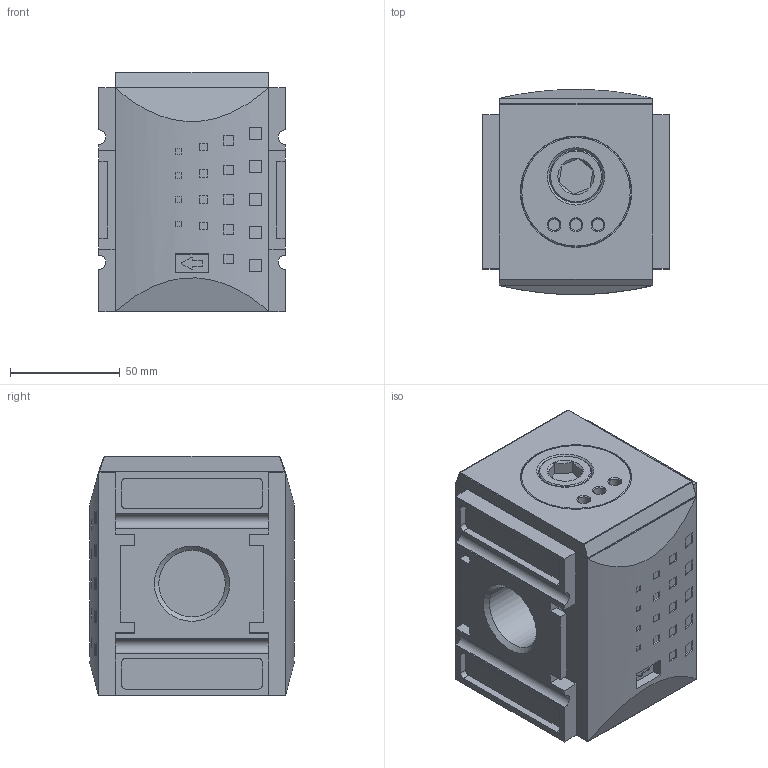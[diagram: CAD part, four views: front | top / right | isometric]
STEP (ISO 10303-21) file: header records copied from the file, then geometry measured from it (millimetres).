
FILE_DESCRIPTION((''),'2;1');
FILE_NAME('K:\ZEICHNG\Kunden Modelle\FUTURA Steps\BG4\KDIS-41.stp','2010-02-10T08:52:58',('DDruske'),(''),'Autodesk Inventor 2009','Autodesk Inventor 2009','');
FILE_SCHEMA(('AUTOMOTIVE_DESIGN { 1 0 10303 214 1 1 1 1 }'));
Length unit declared in the file: millimetre
Products named in the file (1): Bauteil9
Bounding box: 85 x 93.25 x 109 mm (x, y, z)
Volume: 699655.1 mm3; surface area: 73488.2 mm2
Topology: 1 solids, 1 shells, 449 faces, 1136 edges, 731 vertices
Faces by surface type: plane 249, cylinder 116, bspline 54, cone 13, torus 9, sphere 8
Full cylindrical faces by diameter (mm): 5.3 x3, 24.1 x2, 30.291 x1, 50.4 x1
Entity records: 13949 total; most frequent: CARTESIAN_POINT 2638, DIRECTION 2220, ORIENTED_EDGE 2220, EDGE_CURVE 1110, VECTOR 748, LINE 748, AXIS2_PLACEMENT_3D 736, VERTEX_POINT 730
